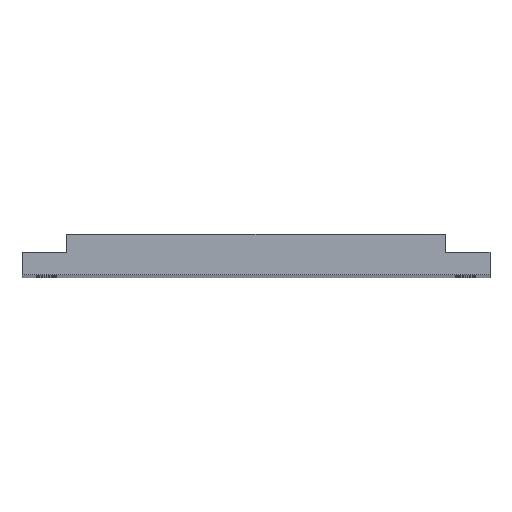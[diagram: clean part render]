
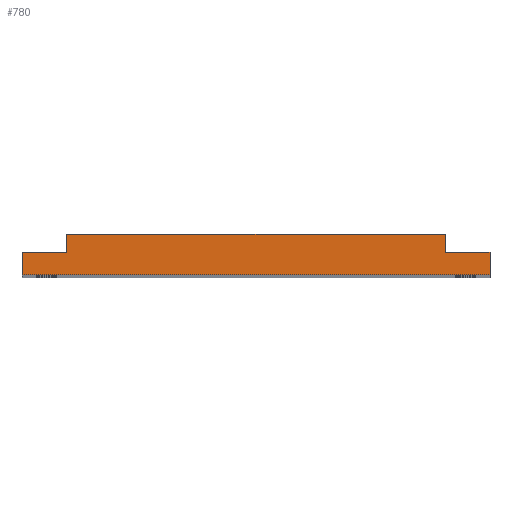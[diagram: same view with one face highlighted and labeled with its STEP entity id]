
A CAD part, top view. The second image highlights one B-rep face of the part: STEP entity #780.
In plain terms, the highlighted planar face has unit normal (0, 0, 1).
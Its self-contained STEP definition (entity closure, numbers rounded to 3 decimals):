
#24 = ORIENTED_EDGE ( 'NONE', *, *, #1000, .F. ) ;
#50 = LINE ( 'NONE', #1104, #631 ) ;
#55 = CARTESIAN_POINT ( 'NONE',  ( 50.6, 7.8, 420. ) ) ;
#72 = CARTESIAN_POINT ( 'NONE',  ( -62.5, 3., 420. ) ) ;
#139 = EDGE_CURVE ( 'NONE', #1187, #679, #1433, .T. ) ;
#161 = ORIENTED_EDGE ( 'NONE', *, *, #956, .T. ) ;
#187 = AXIS2_PLACEMENT_3D ( 'NONE', #939, #228, #373 ) ;
#228 = DIRECTION ( 'NONE',  ( 0., 0., 1. ) ) ;
#229 = ORIENTED_EDGE ( 'NONE', *, *, #1029, .F. ) ;
#234 = EDGE_CURVE ( 'NONE', #475, #1098, #1101, .T. ) ;
#237 = VECTOR ( 'NONE', #1529, 1000. ) ;
#240 = EDGE_CURVE ( 'NONE', #897, #475, #858, .T. ) ;
#373 = DIRECTION ( 'NONE',  ( 1., 0., 0. ) ) ;
#436 = CARTESIAN_POINT ( 'NONE',  ( 50.6, 3., 420. ) ) ;
#475 = VERTEX_POINT ( 'NONE', #864 ) ;
#513 = LINE ( 'NONE', #1479, #827 ) ;
#541 = CARTESIAN_POINT ( 'NONE',  ( -50.6, 3., 420. ) ) ;
#542 = CARTESIAN_POINT ( 'NONE',  ( -62.5, 3., 420. ) ) ;
#631 = VECTOR ( 'NONE', #1393, 1000. ) ;
#679 = VERTEX_POINT ( 'NONE', #55 ) ;
#753 = EDGE_CURVE ( 'NONE', #767, #897, #839, .T. ) ;
#767 = VERTEX_POINT ( 'NONE', #1317 ) ;
#769 = VECTOR ( 'NONE', #1598, 1000. ) ;
#770 = CARTESIAN_POINT ( 'NONE',  ( 50.6, 7.8, 420. ) ) ;
#780 = ADVANCED_FACE ( 'NONE', ( #1057 ), #1210, .T. ) ;
#784 = CARTESIAN_POINT ( 'NONE',  ( 62.5, 3., 420. ) ) ;
#795 = DIRECTION ( 'NONE',  ( -1., 0., 0. ) ) ;
#827 = VECTOR ( 'NONE', #1214, 1000. ) ;
#830 = CARTESIAN_POINT ( 'NONE',  ( -50.6, 3., 420. ) ) ;
#839 = LINE ( 'NONE', #1472, #1834 ) ;
#854 = CARTESIAN_POINT ( 'NONE',  ( -50.6, 7.8, 420. ) ) ;
#858 = LINE ( 'NONE', #784, #1830 ) ;
#864 = CARTESIAN_POINT ( 'NONE',  ( 62.5, 3., 420. ) ) ;
#880 = CARTESIAN_POINT ( 'NONE',  ( -62.5, 3., 420. ) ) ;
#897 = VERTEX_POINT ( 'NONE', #955 ) ;
#924 = DIRECTION ( 'NONE',  ( 0., 1., 0. ) ) ;
#939 = CARTESIAN_POINT ( 'NONE',  ( 0., 0., 420. ) ) ;
#955 = CARTESIAN_POINT ( 'NONE',  ( 62.5, -3., 420. ) ) ;
#956 = EDGE_CURVE ( 'NONE', #1237, #767, #1858, .T. ) ;
#977 = DIRECTION ( 'NONE',  ( 0., 1., 0. ) ) ;
#1000 = EDGE_CURVE ( 'NONE', #679, #1098, #50, .T. ) ;
#1029 = EDGE_CURVE ( 'NONE', #1552, #1187, #1731, .T. ) ;
#1050 = DIRECTION ( 'NONE',  ( 1., 0., 0. ) ) ;
#1057 = FACE_OUTER_BOUND ( 'NONE', #1331, .T. ) ;
#1098 = VERTEX_POINT ( 'NONE', #436 ) ;
#1101 = LINE ( 'NONE', #72, #1543 ) ;
#1104 = CARTESIAN_POINT ( 'NONE',  ( 50.6, 3., 420. ) ) ;
#1144 = ORIENTED_EDGE ( 'NONE', *, *, #234, .T. ) ;
#1187 = VERTEX_POINT ( 'NONE', #854 ) ;
#1189 = ORIENTED_EDGE ( 'NONE', *, *, #1303, .T. ) ;
#1210 = PLANE ( 'NONE',  #187 ) ;
#1214 = DIRECTION ( 'NONE',  ( -1., 0., 0. ) ) ;
#1221 = ORIENTED_EDGE ( 'NONE', *, *, #753, .T. ) ;
#1237 = VERTEX_POINT ( 'NONE', #880 ) ;
#1303 = EDGE_CURVE ( 'NONE', #1552, #1237, #513, .T. ) ;
#1317 = CARTESIAN_POINT ( 'NONE',  ( -62.5, -3., 420. ) ) ;
#1331 = EDGE_LOOP ( 'NONE', ( #1632, #1144, #24, #1575, #229, #1189, #161, #1221 ) ) ;
#1393 = DIRECTION ( 'NONE',  ( 0., -1., 0. ) ) ;
#1433 = LINE ( 'NONE', #770, #769 ) ;
#1472 = CARTESIAN_POINT ( 'NONE',  ( -62.5, -3., 420. ) ) ;
#1479 = CARTESIAN_POINT ( 'NONE',  ( -62.5, 3., 420. ) ) ;
#1529 = DIRECTION ( 'NONE',  ( 0., -1., 0. ) ) ;
#1543 = VECTOR ( 'NONE', #795, 1000. ) ;
#1552 = VERTEX_POINT ( 'NONE', #541 ) ;
#1567 = VECTOR ( 'NONE', #977, 1000. ) ;
#1575 = ORIENTED_EDGE ( 'NONE', *, *, #139, .F. ) ;
#1598 = DIRECTION ( 'NONE',  ( 1., 0., 0. ) ) ;
#1632 = ORIENTED_EDGE ( 'NONE', *, *, #240, .T. ) ;
#1731 = LINE ( 'NONE', #830, #1567 ) ;
#1830 = VECTOR ( 'NONE', #924, 1000. ) ;
#1834 = VECTOR ( 'NONE', #1050, 1000. ) ;
#1858 = LINE ( 'NONE', #542, #237 ) ;
